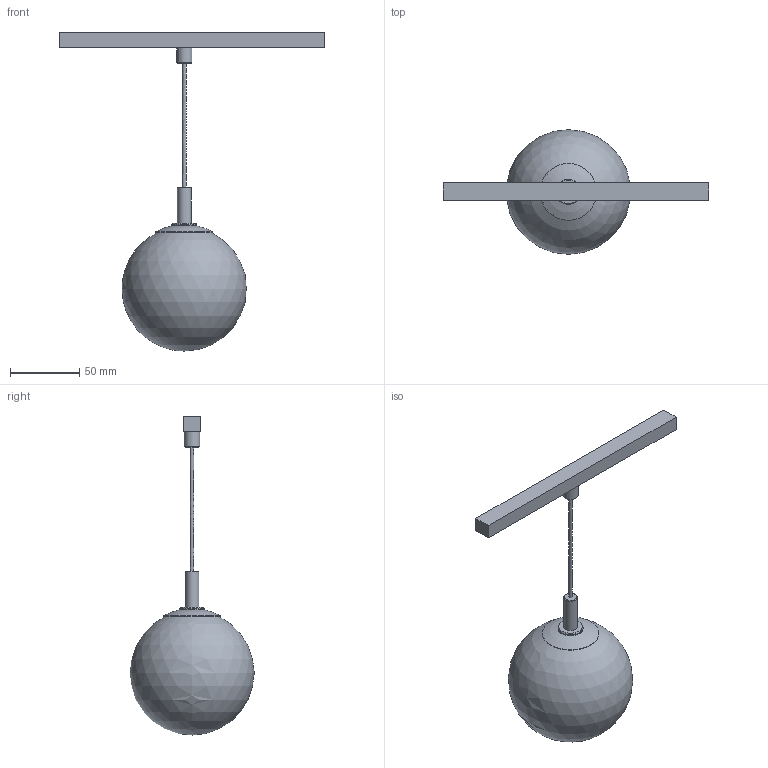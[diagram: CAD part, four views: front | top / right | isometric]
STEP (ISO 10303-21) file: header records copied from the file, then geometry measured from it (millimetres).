
FILE_DESCRIPTION(/* description */ (''),/* implementation_level */ '2;1');
FILE_NAME(/* name */ '083665_--NH9 TA SIMPLIFIED.stp',/* time_stamp */ '2021-11-08T16:29:57+01:00',/* author */ (''),/* organization */ (''),/* preprocessor_version */ 'ST-DEVELOPER v16.7',/* originating_system */ 'SIEMENS PLM Software NX 1911',/* authorisation */ '');
FILE_SCHEMA (('AUTOMOTIVE_DESIGN { 1 0 10303 214 3 1 1 1 }'));
Length unit declared in the file: millimetre
Products named in the file (1): Hamp188498FC8xr8
Bounding box: 191.81 x 90 x 229.79 mm (x, y, z)
Surface area: 37463.1 mm2 (no closed solid volume)
Topology: 0 solids, 19 shells, 19 faces, 76 edges, 66 vertices
Faces by surface type: plane 9, cylinder 4, cone 3, sphere 2, bspline 1
Full cylindrical faces by diameter (mm): 10 x1, 11 x1, 18 x1, 41 x1
Entity records: 1061 total; most frequent: CARTESIAN_POINT 299, DIRECTION 128, AXIS2_PLACEMENT_3D 52, ORIENTED_EDGE 47, VERTEX_POINT 47, EDGE_CURVE 47, STYLED_ITEM 33, PRESENTATION_STYLE_ASSIGNMENT 33
